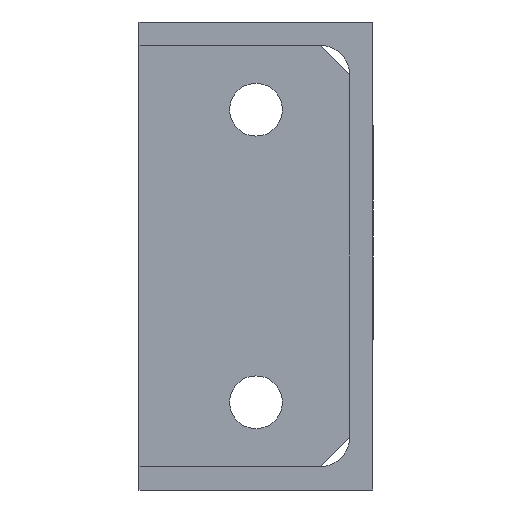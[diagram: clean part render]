
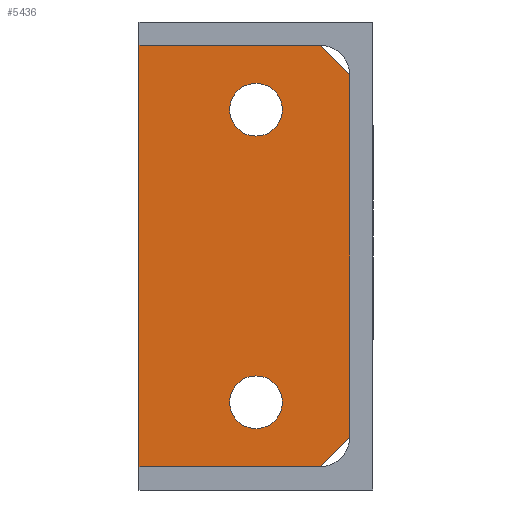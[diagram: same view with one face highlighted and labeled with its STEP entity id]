
A CAD part, front view. The second image highlights one B-rep face of the part: STEP entity #5436.
In plain terms, the highlighted planar face has unit normal (0, -1, 0) as drawn and (0, 0, -1) by its records, which use the part's own axes.
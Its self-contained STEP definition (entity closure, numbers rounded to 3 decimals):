
#34 = DIRECTION ( 'NONE',  ( 0., 0., 1. ) ) ;
#38 = DIRECTION ( 'NONE',  ( 0., 0., -1. ) ) ;
#96 = FACE_BOUND ( 'NONE', #5084, .T. ) ;
#194 = CARTESIAN_POINT ( 'NONE',  ( 15.5, 20., 0. ) ) ;
#217 = VERTEX_POINT ( 'NONE', #676 ) ;
#247 = EDGE_LOOP ( 'NONE', ( #4642, #1408 ) ) ;
#375 = VERTEX_POINT ( 'NONE', #5339 ) ;
#424 = EDGE_CURVE ( 'NONE', #1602, #4607, #2501, .T. ) ;
#462 = EDGE_CURVE ( 'NONE', #4239, #4607, #2896, .T. ) ;
#481 = CARTESIAN_POINT ( 'NONE',  ( 0., 0., 0. ) ) ;
#571 = VECTOR ( 'NONE', #815, 1000. ) ;
#590 = VERTEX_POINT ( 'NONE', #194 ) ;
#658 = DIRECTION ( 'NONE',  ( 0., 1., 0. ) ) ;
#666 = VECTOR ( 'NONE', #2639, 1000. ) ;
#676 = CARTESIAN_POINT ( 'NONE',  ( 0., 31., 0. ) ) ;
#751 = CIRCLE ( 'NONE', #2490, 4.5 ) ;
#815 = DIRECTION ( 'NONE',  ( 0.707, 0.707, 0. ) ) ;
#853 = CARTESIAN_POINT ( 'NONE',  ( 67., 36., 0. ) ) ;
#863 = DIRECTION ( 'NONE',  ( 0., 0., 1. ) ) ;
#911 = DIRECTION ( 'NONE',  ( -1., 0., 0. ) ) ;
#1113 = CARTESIAN_POINT ( 'NONE',  ( 72., 0., 0. ) ) ;
#1166 = DIRECTION ( 'NONE',  ( 0., 0., 1. ) ) ;
#1198 = VECTOR ( 'NONE', #4813, 1000. ) ;
#1282 = EDGE_CURVE ( 'NONE', #4239, #3288, #4050, .T. ) ;
#1283 = EDGE_CURVE ( 'NONE', #217, #2899, #5913, .T. ) ;
#1336 = CARTESIAN_POINT ( 'NONE',  ( 0., 36., 0. ) ) ;
#1374 = CARTESIAN_POINT ( 'NONE',  ( 11., 20., 0. ) ) ;
#1408 = ORIENTED_EDGE ( 'NONE', *, *, #1555, .T. ) ;
#1495 = DIRECTION ( 'NONE',  ( 0., 0., 1. ) ) ;
#1555 = EDGE_CURVE ( 'NONE', #5388, #375, #2565, .T. ) ;
#1602 = VERTEX_POINT ( 'NONE', #5994 ) ;
#1750 = ORIENTED_EDGE ( 'NONE', *, *, #1282, .F. ) ;
#1877 = DIRECTION ( 'NONE',  ( 0., -1., 0. ) ) ;
#1885 = DIRECTION ( 'NONE',  ( 1., 0., 0. ) ) ;
#1917 = ORIENTED_EDGE ( 'NONE', *, *, #1283, .F. ) ;
#1971 = CARTESIAN_POINT ( 'NONE',  ( 0., 0., 0. ) ) ;
#2179 = LINE ( 'NONE', #3167, #571 ) ;
#2183 = LINE ( 'NONE', #5857, #666 ) ;
#2206 = AXIS2_PLACEMENT_3D ( 'NONE', #1971, #38, #911 ) ;
#2218 = CARTESIAN_POINT ( 'NONE',  ( 56.5, 20., 0. ) ) ;
#2254 = EDGE_CURVE ( 'NONE', #590, #4639, #3729, .T. ) ;
#2288 = AXIS2_PLACEMENT_3D ( 'NONE', #1374, #34, #1885 ) ;
#2306 = FACE_BOUND ( 'NONE', #247, .T. ) ;
#2360 = ORIENTED_EDGE ( 'NONE', *, *, #3085, .F. ) ;
#2490 = AXIS2_PLACEMENT_3D ( 'NONE', #5616, #1495, #3326 ) ;
#2501 = LINE ( 'NONE', #1113, #4095 ) ;
#2565 = CIRCLE ( 'NONE', #3627, 4.5 ) ;
#2571 = EDGE_CURVE ( 'NONE', #375, #5388, #4912, .T. ) ;
#2639 = DIRECTION ( 'NONE',  ( 1., 0., 0. ) ) ;
#2710 = DIRECTION ( 'NONE',  ( 1., 0., 0. ) ) ;
#2783 = PLANE ( 'NONE',  #2206 ) ;
#2845 = FACE_OUTER_BOUND ( 'NONE', #3690, .T. ) ;
#2896 = LINE ( 'NONE', #4293, #1198 ) ;
#2899 = VERTEX_POINT ( 'NONE', #4678 ) ;
#3085 = EDGE_CURVE ( 'NONE', #2899, #1602, #2183, .T. ) ;
#3162 = DIRECTION ( 'NONE',  ( -1., 0., 0. ) ) ;
#3167 = CARTESIAN_POINT ( 'NONE',  ( -15.5, 15.5, 0. ) ) ;
#3288 = VERTEX_POINT ( 'NONE', #4819 ) ;
#3326 = DIRECTION ( 'NONE',  ( 1., 0., 0. ) ) ;
#3465 = EDGE_CURVE ( 'NONE', #217, #3288, #2179, .T. ) ;
#3541 = AXIS2_PLACEMENT_3D ( 'NONE', #4323, #1166, #3856 ) ;
#3548 = ORIENTED_EDGE ( 'NONE', *, *, #462, .T. ) ;
#3627 = AXIS2_PLACEMENT_3D ( 'NONE', #5871, #863, #2710 ) ;
#3690 = EDGE_LOOP ( 'NONE', ( #1750, #3548, #3867, #2360, #1917, #3837 ) ) ;
#3729 = CIRCLE ( 'NONE', #2288, 4.5 ) ;
#3837 = ORIENTED_EDGE ( 'NONE', *, *, #3465, .T. ) ;
#3856 = DIRECTION ( 'NONE',  ( 1., 0., 0. ) ) ;
#3867 = ORIENTED_EDGE ( 'NONE', *, *, #424, .F. ) ;
#4050 = LINE ( 'NONE', #1336, #4195 ) ;
#4074 = CARTESIAN_POINT ( 'NONE',  ( 72., 31., 0. ) ) ;
#4095 = VECTOR ( 'NONE', #658, 1000. ) ;
#4195 = VECTOR ( 'NONE', #3162, 1000. ) ;
#4233 = ORIENTED_EDGE ( 'NONE', *, *, #2254, .T. ) ;
#4239 = VERTEX_POINT ( 'NONE', #853 ) ;
#4293 = CARTESIAN_POINT ( 'NONE',  ( 51.5, 51.5, 0. ) ) ;
#4323 = CARTESIAN_POINT ( 'NONE',  ( 61., 20., 0. ) ) ;
#4607 = VERTEX_POINT ( 'NONE', #4074 ) ;
#4639 = VERTEX_POINT ( 'NONE', #5936 ) ;
#4642 = ORIENTED_EDGE ( 'NONE', *, *, #2571, .T. ) ;
#4678 = CARTESIAN_POINT ( 'NONE',  ( 0., 0., 0. ) ) ;
#4813 = DIRECTION ( 'NONE',  ( 0.707, -0.707, 0. ) ) ;
#4819 = CARTESIAN_POINT ( 'NONE',  ( 5., 36., 0. ) ) ;
#4912 = CIRCLE ( 'NONE', #3541, 4.5 ) ;
#5084 = EDGE_LOOP ( 'NONE', ( #4233, #5635 ) ) ;
#5339 = CARTESIAN_POINT ( 'NONE',  ( 65.5, 20., 0. ) ) ;
#5388 = VERTEX_POINT ( 'NONE', #2218 ) ;
#5436 = ADVANCED_FACE ( 'NONE', ( #96, #2306, #2845 ), #2783, .T. ) ;
#5548 = EDGE_CURVE ( 'NONE', #4639, #590, #751, .T. ) ;
#5616 = CARTESIAN_POINT ( 'NONE',  ( 11., 20., 0. ) ) ;
#5635 = ORIENTED_EDGE ( 'NONE', *, *, #5548, .T. ) ;
#5845 = VECTOR ( 'NONE', #1877, 1000. ) ;
#5857 = CARTESIAN_POINT ( 'NONE',  ( 0., 0., 0. ) ) ;
#5871 = CARTESIAN_POINT ( 'NONE',  ( 61., 20., 0. ) ) ;
#5913 = LINE ( 'NONE', #481, #5845 ) ;
#5936 = CARTESIAN_POINT ( 'NONE',  ( 6.5, 20., 0. ) ) ;
#5994 = CARTESIAN_POINT ( 'NONE',  ( 72., 0., 0. ) ) ;
